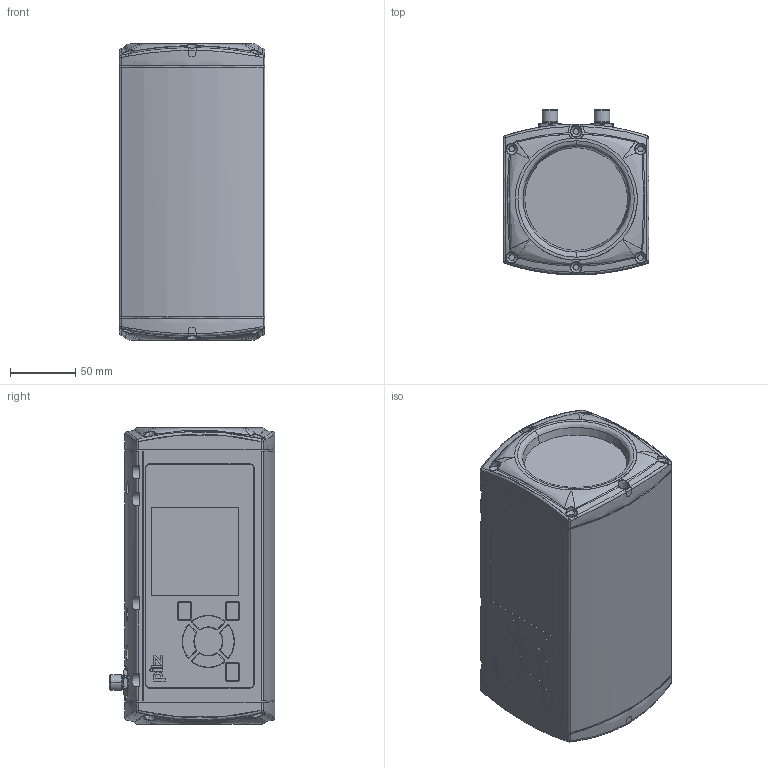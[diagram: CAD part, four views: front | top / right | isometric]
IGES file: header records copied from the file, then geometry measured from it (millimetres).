
Start section:  PTC IGES file: 2007766
Global section: file name: 2007766; native system: Pro/ENGINEER by Parametric Technology Corporation; preprocessor: 2009380; author: veit; organization: Unknown; date: 20100824.150439; units: millimetre
Bounding box: 112.2 x 127.5 x 228 mm (x, y, z)
Surface area: 150534.8 mm2 (no closed solid volume)
Topology: 0 solids, 0 shells, 1041 faces, 5074 edges, 5043 vertices
Faces by surface type: revolution 552, bspline 477, extrusion 12
